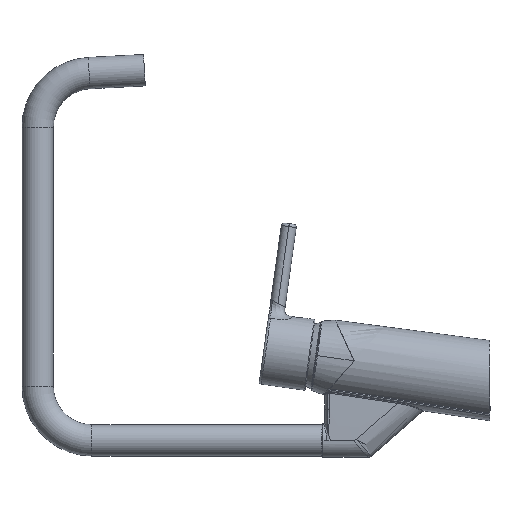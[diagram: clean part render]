
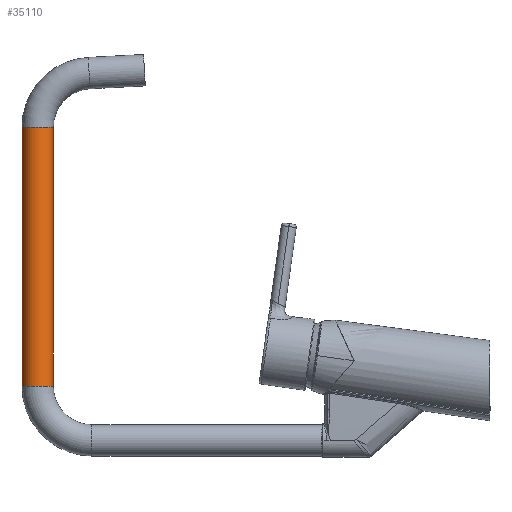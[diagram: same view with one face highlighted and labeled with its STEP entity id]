
A CAD part, left-side view. The second image highlights one B-rep face of the part: STEP entity #35110.
In plain terms, the highlighted cylindrical face has radius 11 mm (diameter 22 mm), a partial arc.
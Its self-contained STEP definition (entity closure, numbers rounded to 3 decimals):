
#4743 = CARTESIAN_POINT ( 'NONE',  ( 0., 305.834, 219.315 ) ) ;
#6676 = CIRCLE ( 'NONE', #33794, 11. ) ;
#7468 = DIRECTION ( 'NONE',  ( 0., 0., 1. ) ) ;
#9973 = LINE ( 'NONE', #32341, #23603 ) ;
#13773 = CARTESIAN_POINT ( 'NONE',  ( 0., 305.834, 38. ) ) ;
#13879 = EDGE_CURVE ( 'NONE', #63882, #44171, #71040, .T. ) ;
#16242 = ORIENTED_EDGE ( 'NONE', *, *, #13879, .F. ) ;
#17487 = AXIS2_PLACEMENT_3D ( 'NONE', #61278, #7468, #81187 ) ;
#18660 = DIRECTION ( 'NONE',  ( 0., 0., -1. ) ) ;
#19177 = DIRECTION ( 'NONE',  ( 0., 0., 1. ) ) ;
#19519 = DIRECTION ( 'NONE',  ( 0., -1., 0. ) ) ;
#23603 = VECTOR ( 'NONE', #19177, 1000. ) ;
#26807 = EDGE_CURVE ( 'NONE', #86734, #63882, #38547, .T. ) ;
#27937 = FACE_OUTER_BOUND ( 'NONE', #66911, .T. ) ;
#32341 = CARTESIAN_POINT ( 'NONE',  ( 0., 305.834, 38. ) ) ;
#33794 = AXIS2_PLACEMENT_3D ( 'NONE', #38941, #38349, #65302 ) ;
#35110 = ADVANCED_FACE ( 'NONE', ( #27937 ), #68851, .T. ) ;
#38349 = DIRECTION ( 'NONE',  ( 0., 0., -1. ) ) ;
#38547 = CIRCLE ( 'NONE', #58395, 11. ) ;
#38941 = CARTESIAN_POINT ( 'NONE',  ( 0., 316.834, 219.315 ) ) ;
#43254 = CARTESIAN_POINT ( 'NONE',  ( 0., 327.834, 219.315 ) ) ;
#44171 = VERTEX_POINT ( 'NONE', #43254 ) ;
#45975 = CARTESIAN_POINT ( 'NONE',  ( 0., 327.834, 38. ) ) ;
#51569 = ORIENTED_EDGE ( 'NONE', *, *, #26807, .F. ) ;
#53725 = EDGE_CURVE ( 'NONE', #86734, #83776, #9973, .T. ) ;
#54132 = CARTESIAN_POINT ( 'NONE',  ( 0., 327.834, 38. ) ) ;
#54316 = VECTOR ( 'NONE', #78764, 1000. ) ;
#58395 = AXIS2_PLACEMENT_3D ( 'NONE', #59615, #18660, #19519 ) ;
#59615 = CARTESIAN_POINT ( 'NONE',  ( 0., 316.834, 38. ) ) ;
#61278 = CARTESIAN_POINT ( 'NONE',  ( 0., 316.834, 38. ) ) ;
#63882 = VERTEX_POINT ( 'NONE', #54132 ) ;
#65302 = DIRECTION ( 'NONE',  ( 0., -1., 0. ) ) ;
#66911 = EDGE_LOOP ( 'NONE', ( #51569, #77439, #79266, #16242 ) ) ;
#68851 = CYLINDRICAL_SURFACE ( 'NONE', #17487, 11. ) ;
#71040 = LINE ( 'NONE', #45975, #54316 ) ;
#77439 = ORIENTED_EDGE ( 'NONE', *, *, #53725, .T. ) ;
#78335 = EDGE_CURVE ( 'NONE', #83776, #44171, #6676, .T. ) ;
#78764 = DIRECTION ( 'NONE',  ( 0., 0., 1. ) ) ;
#79266 = ORIENTED_EDGE ( 'NONE', *, *, #78335, .T. ) ;
#81187 = DIRECTION ( 'NONE',  ( 0., 1., 0. ) ) ;
#83776 = VERTEX_POINT ( 'NONE', #4743 ) ;
#86734 = VERTEX_POINT ( 'NONE', #13773 ) ;
